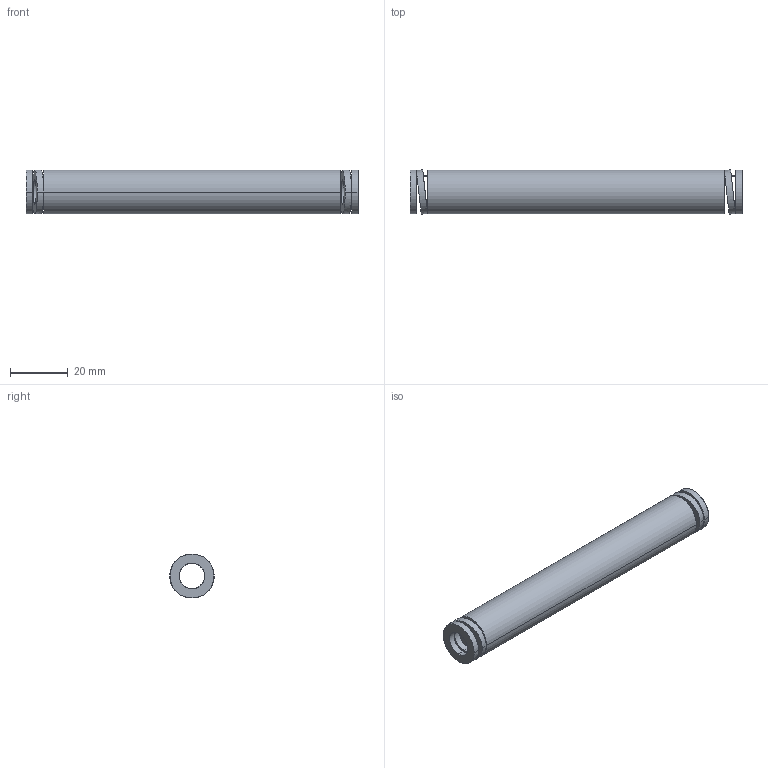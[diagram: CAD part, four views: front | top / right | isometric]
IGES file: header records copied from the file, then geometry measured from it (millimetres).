
Start section: START RECORD GO HERE.
Global section: file name: 392-B16-115.igs; native system: DASSAULT SYSTEMES CATIA V5 R20 - www.3ds.com; preprocessor: CATIA Version 5 Release 20 ; author: Utente; organization: NB04-ASUS; date: 20210812.160300; units: millimetre
Bounding box: 115 x 15.35 x 15.2 mm (x, y, z)
Surface area: 9614.5 mm2 (no closed solid volume)
Topology: 0 solids, 0 shells, 38 faces, 184 edges, 184 vertices
Faces by surface type: revolution 28, plane 10
